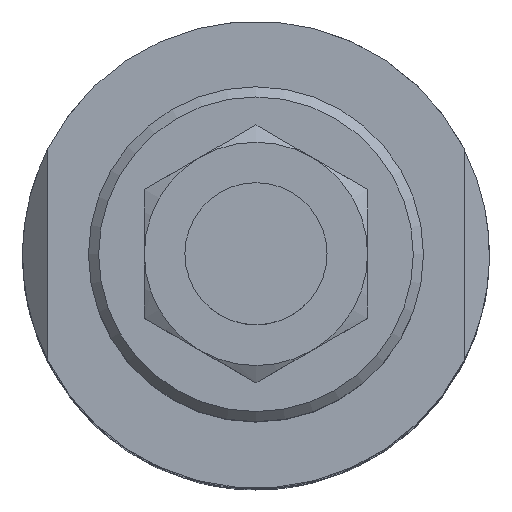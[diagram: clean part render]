
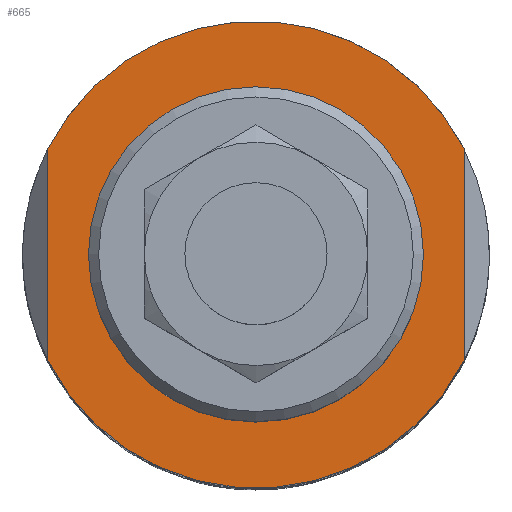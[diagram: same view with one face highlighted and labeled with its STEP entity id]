
A CAD part, top view. The second image highlights one B-rep face of the part: STEP entity #665.
In plain terms, the highlighted planar face has unit normal (0, 0, 1).
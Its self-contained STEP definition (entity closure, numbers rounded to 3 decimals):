
#549=CARTESIAN_POINT('',(-20.5,10.428,138.0));
#550=VERTEX_POINT('',#549);
#558=CARTESIAN_POINT('',(-20.5,-10.428,138.0));
#559=VERTEX_POINT('',#558);
#566=CARTESIAN_POINT('',(-20.5,10.428,138.0));
#567=DIRECTION('',(0.0,-1.0,0.0));
#568=VECTOR('',#567,20.857);
#569=LINE('',#566,#568);
#570=EDGE_CURVE('',#550,#559,#569,.T.);
#605=CARTESIAN_POINT('',(20.5,-10.428,138.0));
#606=VERTEX_POINT('',#605);
#614=CARTESIAN_POINT('',(20.5,10.428,138.0));
#615=VERTEX_POINT('',#614);
#622=CARTESIAN_POINT('',(20.5,-10.428,138.0));
#623=DIRECTION('',(0.0,1.0,0.0));
#624=VECTOR('',#623,20.857);
#625=LINE('',#622,#624);
#626=EDGE_CURVE('',#606,#615,#625,.T.);
#631=CARTESIAN_POINT('',(0.0,0.0,138.0));
#632=DIRECTION('',(0.0,0.0,-1.0));
#633=DIRECTION('',(-1.0,0.0,0.0));
#634=AXIS2_PLACEMENT_3D('',#631,#632,#633);
#635=PLANE('',#634);
#636=ORIENTED_EDGE('',*,*,#570,.T.);
#637=CARTESIAN_POINT('',(0.0,0.0,138.0));
#638=DIRECTION('',(0.0,0.0,-1.0));
#639=DIRECTION('',(-1.0,0.0,0.0));
#640=AXIS2_PLACEMENT_3D('',#637,#638,#639);
#641=CIRCLE('',#640,23.);
#642=EDGE_CURVE('',#606,#559,#641,.T.);
#643=ORIENTED_EDGE('',*,*,#642,.F.);
#644=ORIENTED_EDGE('',*,*,#626,.T.);
#645=CARTESIAN_POINT('',(0.0,0.0,138.0));
#646=DIRECTION('',(0.0,0.0,-1.0));
#647=DIRECTION('',(-1.0,0.0,0.0));
#648=AXIS2_PLACEMENT_3D('',#645,#646,#647);
#649=CIRCLE('',#648,23.);
#650=EDGE_CURVE('',#550,#615,#649,.T.);
#651=ORIENTED_EDGE('',*,*,#650,.F.);
#652=EDGE_LOOP('',(#636,#643,#644,#651));
#653=FACE_OUTER_BOUND('',#652,.T.);
#654=CARTESIAN_POINT('',(16.5,0.,138.0));
#655=VERTEX_POINT('',#654);
#656=CARTESIAN_POINT('',(0.0,0.0,138.0));
#657=DIRECTION('',(0.0,0.0,-1.0));
#658=DIRECTION('',(-1.0,0.0,0.0));
#659=AXIS2_PLACEMENT_3D('',#656,#657,#658);
#660=CIRCLE('',#659,16.5);
#661=EDGE_CURVE('',#655,#655,#660,.T.);
#662=ORIENTED_EDGE('',*,*,#661,.T.);
#663=EDGE_LOOP('',(#662));
#664=FACE_BOUND('',#663,.T.);
#665=ADVANCED_FACE('',(#653,#664),#635,.F.);
